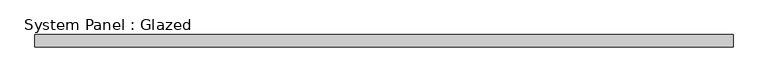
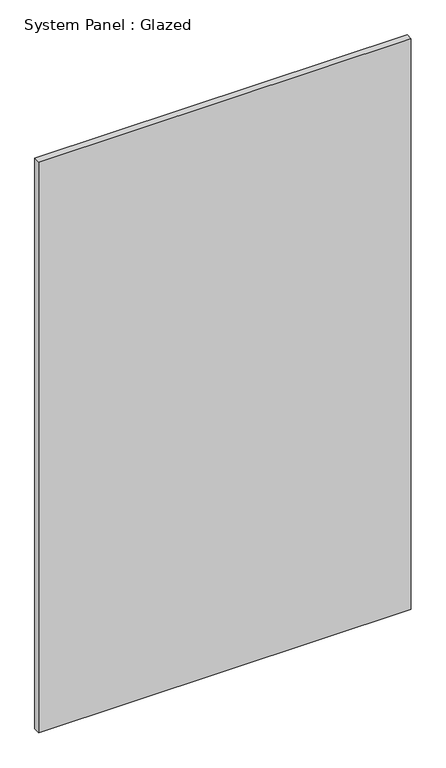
"""IFC4 building model written with IfcOpenShell, lengths in millimetres: plate geometry, System Panel : Glazed."""

from ifc_helpers import new_model, si_unit, origin, origin_with_axes, place, context, project, spatial, polyline, outline, extrude, source, transform, mapped, element, save


def system_panel_glazed_f1d9fa5b(model_context):
    return source(origin(), model_context, "Body", "SweptSolid", [
        extrude(outline(polyline([(723.1944444, 19.05), (-723.1944444, 19.05), (-723.1944444, 44.45), (723.1944444, 44.45), (723.1944444, 19.05)])), origin_with_axes(), (0.0, 0.0, 1.0), 2343.15),
    ])


if __name__ == "__main__":
    model = new_model("IFC4")
    model_context = context("Model", 3, world=origin())
    ifc_project = project(units=[si_unit("LENGTHUNIT", "METRE", prefix="MILLI")], contexts=[model_context])
    site = spatial("IfcSite", under=ifc_project)
    building = spatial("IfcBuilding", under=site)
    placement = place(None, origin())
    system_panel_glazed_shape = system_panel_glazed_f1d9fa5b(model_context)
    element("IfcPlate", 1, ObjectType="System Panel : Glazed", at=placement, inside=building, context=model_context, shape_type="MappedRepresentation", body=[
        mapped(system_panel_glazed_shape, transform((0.0, 0.0, 0.0), x_axis=(1.0, 0.0, 0.0), y_axis=(0.0, 1.0, 0.0), z_axis=(0.0, 0.0, 1.0))),
    ])
    save(model, "model.ifc")
